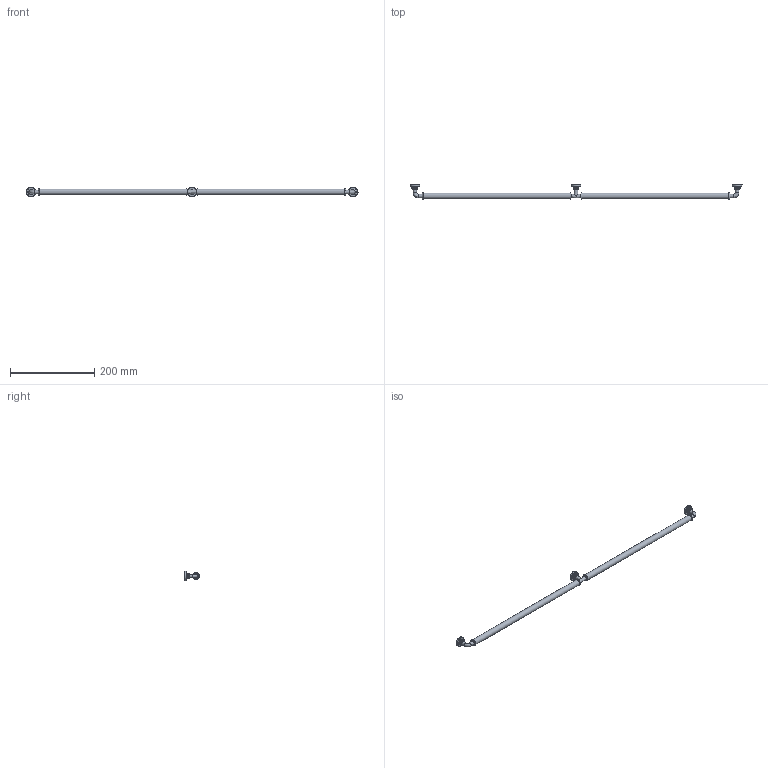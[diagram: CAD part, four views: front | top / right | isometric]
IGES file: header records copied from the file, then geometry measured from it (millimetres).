
Start section: Data from Parasolid IGES Translator 15.0.47, Copyright(c) 2006 Siemens P LM Software. All Rights Reserved.
Global section: file name: 9132278.igs; native system:  By UGS Corp.; preprocessor: XPlus GENERIC/IGES 3.0; author: Noname; organization: Noname; date: 20140122.102204; units: millimetre
Bounding box: 788 x 35 x 23 mm (x, y, z)
Surface area: 38560.2 mm2 (no closed solid volume)
Topology: 0 solids, 0 shells, 67 faces, 304 edges, 250 vertices
Faces by surface type: revolution 56, extrusion 11
